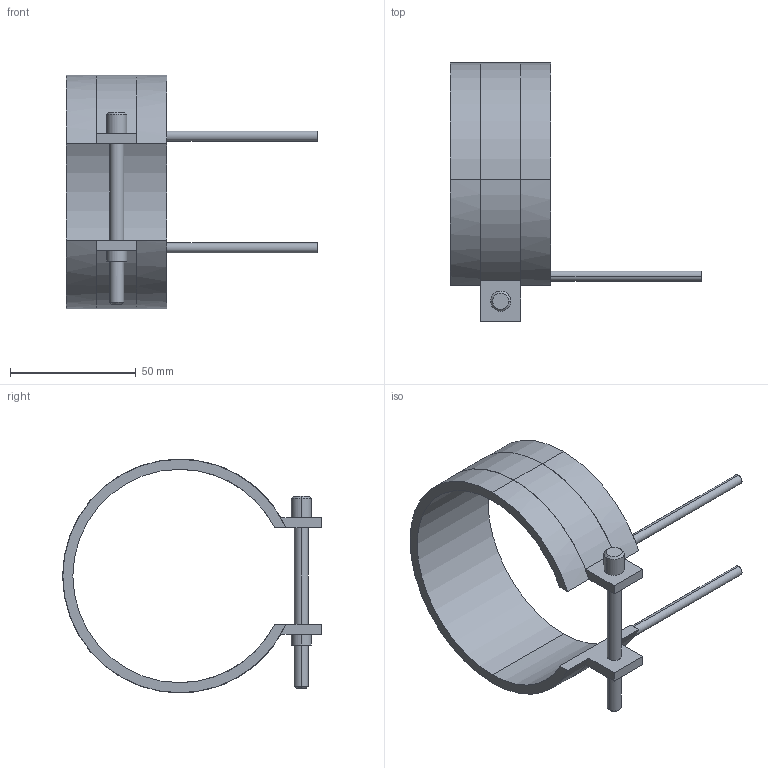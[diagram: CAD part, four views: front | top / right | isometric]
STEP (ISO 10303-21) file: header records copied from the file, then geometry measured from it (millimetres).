
FILE_DESCRIPTION(('CATIA V5 STEP Exchange'),'2;1');
FILE_NAME('C:\Users\Utente\Desktop\IO LAVORO\3D X SITO CF\X SITO\PLASTICA\RF2\14085040.stp','2021-04-06T16:16:37+00:00',('none'),('none'),'CATIA Version 5 Release 20 GA (IN-10)','CATIA V5 STEP AP203','none');
FILE_SCHEMA(('CONFIG_CONTROL_DESIGN'));
Length unit declared in the file: millimetre
Products named in the file (1): 14085040
Bounding box: 100 x 103.1 x 93.2 mm (x, y, z)
Volume: 44251.8 mm3; surface area: 25461 mm2
Topology: 1 solids, 1 shells, 45 faces, 116 edges, 76 vertices
Faces by surface type: cylinder 24, plane 17, cone 4
Entity records: 1418 total; most frequent: CARTESIAN_POINT 296, ORIENTED_EDGE 232, DIRECTION 194, EDGE_CURVE 116, AXIS2_PLACEMENT_3D 102, VERTEX_POINT 76, CIRCLE 60, VECTOR 52
